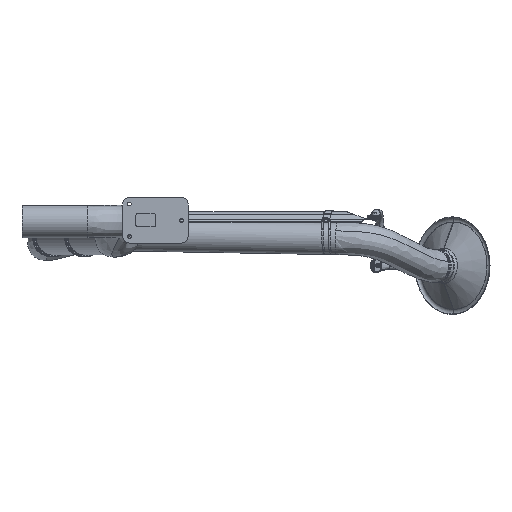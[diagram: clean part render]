
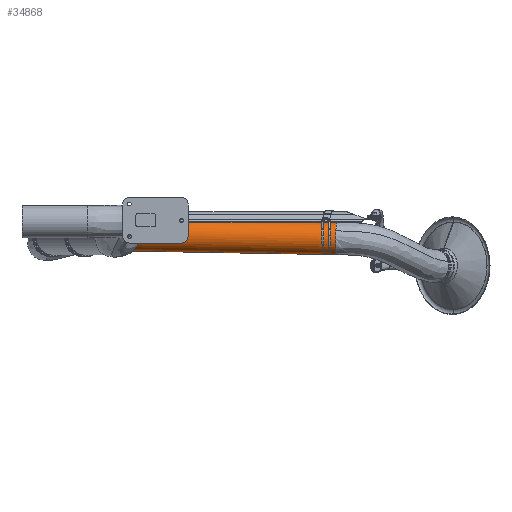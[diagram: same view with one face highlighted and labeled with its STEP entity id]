
A CAD part, left-side view. The second image highlights one B-rep face of the part: STEP entity #34868.
In plain terms, the highlighted free-form (B-spline) face has degree [3, 3] with [7, 6] control points.
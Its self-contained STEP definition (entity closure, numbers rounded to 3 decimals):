
#33908=CARTESIAN_POINT('',(1148.758,-582.902,
-101.692));
#33909=CARTESIAN_POINT('',(1148.758,-502.569,
-100.281));
#33910=CARTESIAN_POINT('',(1148.758,-341.902,
-97.459));
#33911=CARTESIAN_POINT('',(1148.758,-100.902,
-93.226));
#33912=CARTESIAN_POINT('',(1148.758,59.765,
-90.403));
#33913=CARTESIAN_POINT('',(1148.758,140.098,
-88.992));
#33918=CARTESIAN_POINT('',(1148.758,-583.78,-51.7));
#33919=DIRECTION('',(0.,-1.,-0.018));
#33920=DIRECTION('',(0.,-0.018,1.));
#33921=AXIS2_PLACEMENT_3D('',#33918,#33919,#33920);
#33926=CARTESIAN_POINT('',(1148.758,-583.78,-51.7));
#33927=DIRECTION('',(0.,-1.,-0.018));
#33928=DIRECTION('',(-0.884,-0.008,0.468));
#33929=AXIS2_PLACEMENT_3D('',#33926,#33927,#33928);
#33950=CARTESIAN_POINT('',(1148.758,-584.658,
-1.708));
#33951=CARTESIAN_POINT('',(1148.758,-504.325,
-0.297));
#33952=CARTESIAN_POINT('',(1148.758,-343.658,
2.526));
#33953=CARTESIAN_POINT('',(1148.758,-102.658,
6.759));
#33954=CARTESIAN_POINT('',(1148.758,58.008,9.581));
#33955=CARTESIAN_POINT('',(1148.758,138.342,10.992));
#34243=CARTESIAN_POINT('',(1148.758,139.22,-39.));
#34244=DIRECTION('',(0.,1.,0.018));
#34245=DIRECTION('',(0.,0.018,-1.));
#34246=AXIS2_PLACEMENT_3D('',#34243,#34244,#34245);
#34773=CARTESIAN_POINT('',(1148.758,140.098,
-88.992));
#34774=CARTESIAN_POINT('',(1148.758,138.342,10.992));
#34775=VERTEX_POINT('',#34773);
#34776=VERTEX_POINT('',#34774);
#34799=VERTEX_POINT('',#33908);
#34800=VERTEX_POINT('',#33950);
#34809=CARTESIAN_POINT('',(1104.567,-584.191,
-28.314));
#34810=VERTEX_POINT('',#34809);
#34813=CARTESIAN_POINT('',(1151.898,-597.364,
-101.848));
#34814=CARTESIAN_POINT('',(1151.898,-592.544,
-101.763));
#34815=CARTESIAN_POINT('',(1151.898,-346.724,
-97.445));
#34816=CARTESIAN_POINT('',(1151.898,-96.084,
-93.042));
#34817=CARTESIAN_POINT('',(1151.898,149.736,
-88.724));
#34818=CARTESIAN_POINT('',(1151.898,154.556,
-88.64));
#34819=CARTESIAN_POINT('',(1121.189,-597.33,
-103.779));
#34820=CARTESIAN_POINT('',(1121.189,-592.51,
-103.695));
#34821=CARTESIAN_POINT('',(1121.189,-346.69,
-99.377));
#34822=CARTESIAN_POINT('',(1121.189,-96.05,
-94.974));
#34823=CARTESIAN_POINT('',(1121.189,149.77,
-90.656));
#34824=CARTESIAN_POINT('',(1121.189,154.59,
-90.571));
#34825=CARTESIAN_POINT('',(1098.758,-597.7,
-82.719));
#34826=CARTESIAN_POINT('',(1098.758,-592.88,
-82.635));
#34827=CARTESIAN_POINT('',(1098.758,-347.06,
-78.317));
#34828=CARTESIAN_POINT('',(1098.758,-96.42,
-73.914));
#34829=CARTESIAN_POINT('',(1098.758,149.4,
-69.596));
#34830=CARTESIAN_POINT('',(1098.758,154.22,
-69.511));
#34831=CARTESIAN_POINT('',(1098.758,-598.24,-51.954));
#34832=CARTESIAN_POINT('',(1098.758,-593.42,
-51.869));
#34833=CARTESIAN_POINT('',(1098.758,-347.6,
-47.551));
#34834=CARTESIAN_POINT('',(1098.758,-96.96,
-43.149));
#34835=CARTESIAN_POINT('',(1098.758,148.86,
-38.831));
#34836=CARTESIAN_POINT('',(1098.758,153.68,-38.746));
#34837=CARTESIAN_POINT('',(1098.758,-598.781,
-21.189));
#34838=CARTESIAN_POINT('',(1098.758,-593.961,
-21.104));
#34839=CARTESIAN_POINT('',(1098.758,-348.141,
-16.786));
#34840=CARTESIAN_POINT('',(1098.758,-97.501,
-12.383));
#34841=CARTESIAN_POINT('',(1098.758,148.319,
-8.065));
#34842=CARTESIAN_POINT('',(1098.758,153.139,
-7.981));
#34843=CARTESIAN_POINT('',(1121.189,-599.15,
-0.129));
#34844=CARTESIAN_POINT('',(1121.189,-594.33,
-0.044));
#34845=CARTESIAN_POINT('',(1121.189,-348.51,
4.274));
#34846=CARTESIAN_POINT('',(1121.189,-97.87,
8.677));
#34847=CARTESIAN_POINT('',(1121.189,147.95,12.995));
#34848=CARTESIAN_POINT('',(1121.189,152.77,13.079));
#34849=CARTESIAN_POINT('',(1151.898,-599.117,
-2.06));
#34850=CARTESIAN_POINT('',(1151.898,-594.297,
-1.976));
#34851=CARTESIAN_POINT('',(1151.898,-348.477,
2.342));
#34852=CARTESIAN_POINT('',(1151.898,-97.837,
6.745));
#34853=CARTESIAN_POINT('',(1151.898,147.983,11.063));
#34854=CARTESIAN_POINT('',(1151.898,152.803,11.148));
#34855=(BOUNDED_SURFACE()B_SPLINE_SURFACE(3,3,((#34813,#34814,#34815,#34816,
#34817,#34818),(#34819,#34820,#34821,#34822,#34823,#34824),(#34825,#34826,
#34827,#34828,#34829,#34830),(#34831,#34832,#34833,#34834,#34835,#34836),
(#34837,#34838,#34839,#34840,#34841,#34842),(#34843,#34844,#34845,#34846,#34847,
#34848),(#34849,#34850,#34851,#34852,#34853,#34854)),.UNSPECIFIED.,.F.,.F.,.F.)B_SPLINE_SURFACE_WITH_KNOTS((4,3,4),(4,1,1,4),(0.,1.,2.),(-0.02,0.,1.,
1.02),.UNSPECIFIED.)GEOMETRIC_REPRESENTATION_ITEM()RATIONAL_B_SPLINE_SURFACE((
(1.187,1.187,1.187,1.187,
1.187,1.187),(0.938,0.938,
0.938,0.938,0.938,0.938),(
0.938,0.938,0.938,0.938,
0.938,0.938),(1.187,1.187,
1.187,1.187,1.187,1.187),(
0.938,0.938,0.938,0.938,
0.938,0.938),(0.938,0.938,
0.938,0.938,0.938,0.938),(
1.187,1.187,1.187,1.187,
1.187,1.187)))REPRESENTATION_ITEM('')SURFACE());
#34857=ORIENTED_EDGE('',*,*,#34856,.T.);
#34859=ORIENTED_EDGE('',*,*,#34858,.T.);
#34861=ORIENTED_EDGE('',*,*,#34860,.F.);
#34863=ORIENTED_EDGE('',*,*,#34862,.T.);
#34865=ORIENTED_EDGE('',*,*,#34864,.T.);
#34866=EDGE_LOOP('',(#34857,#34859,#34861,#34863,#34865));
#34867=FACE_OUTER_BOUND('',#34866,.F.);
#33914=B_SPLINE_CURVE_WITH_KNOTS('',3,(#33908,#33909,#33910,#33911,#33912,
#33913),.UNSPECIFIED.,.F.,.F.,(4,1,1,4),(0.,0.333,
0.667,1.),.UNSPECIFIED.);
#33922=CIRCLE('',#33921,50.);
#33930=CIRCLE('',#33929,50.);
#33956=B_SPLINE_CURVE_WITH_KNOTS('',3,(#33950,#33951,#33952,#33953,#33954,
#33955),.UNSPECIFIED.,.F.,.F.,(4,1,1,4),(0.,0.333,
0.667,1.),.UNSPECIFIED.);
#34247=CIRCLE('',#34246,50.);
#34856=EDGE_CURVE('',#34799,#34775,#33914,.T.);
#34858=EDGE_CURVE('',#34775,#34776,#34247,.T.);
#34860=EDGE_CURVE('',#34800,#34776,#33956,.T.);
#34862=EDGE_CURVE('',#34800,#34810,#33922,.T.);
#34864=EDGE_CURVE('',#34810,#34799,#33930,.T.);
#34868=ADVANCED_FACE('',(#34867),#34855,.T.);
